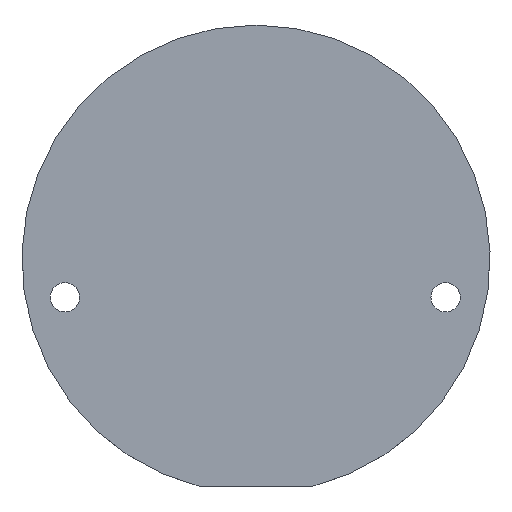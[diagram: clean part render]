
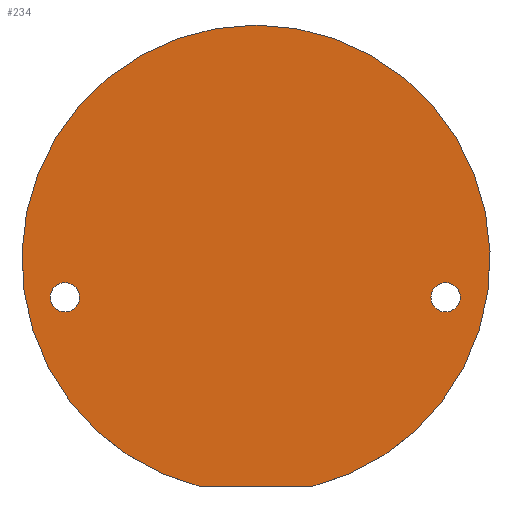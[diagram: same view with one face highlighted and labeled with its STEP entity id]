
A CAD part, top view. The second image highlights one B-rep face of the part: STEP entity #234.
In plain terms, the highlighted planar face has unit normal (0, 0, 1).
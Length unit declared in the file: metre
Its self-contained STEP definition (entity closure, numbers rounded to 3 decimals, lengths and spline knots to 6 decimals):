
#12=CIRCLE('',#260,0.032);
#16=CIRCLE('',#266,0.002);
#17=CIRCLE('',#267,0.002);
#49=ORIENTED_EDGE('',*,*,#107,.T.);
#50=ORIENTED_EDGE('',*,*,#108,.T.);
#51=ORIENTED_EDGE('',*,*,#95,.T.);
#52=ORIENTED_EDGE('',*,*,#99,.F.);
#95=EDGE_CURVE('',#126,#127,#148,.T.);
#99=EDGE_CURVE('',#126,#127,#12,.T.);
#107=EDGE_CURVE('',#136,#136,#16,.T.);
#108=EDGE_CURVE('',#137,#137,#17,.T.);
#126=VERTEX_POINT('',#364);
#127=VERTEX_POINT('',#365);
#136=VERTEX_POINT('',#389);
#137=VERTEX_POINT('',#391);
#148=LINE('',#363,#165);
#165=VECTOR('',#290,1.);
#188=EDGE_LOOP('',(#49));
#189=EDGE_LOOP('',(#50));
#190=EDGE_LOOP('',(#51,#52));
#209=FACE_BOUND('',#188,.T.);
#210=FACE_BOUND('',#189,.T.);
#211=FACE_BOUND('',#190,.T.);
#226=PLANE('',#265);
#234=ADVANCED_FACE('',(#209,#210,#211),#226,.F.);
#260=AXIS2_PLACEMENT_3D('',#372,#296,#297);
#265=AXIS2_PLACEMENT_3D('',#387,#310,#311);
#266=AXIS2_PLACEMENT_3D('',#388,#312,#313);
#267=AXIS2_PLACEMENT_3D('',#390,#314,#315);
#290=DIRECTION('',(1.,0.,0.));
#296=DIRECTION('',(0.,0.,-1.));
#297=DIRECTION('',(-1.,0.,0.));
#310=DIRECTION('',(0.,0.,-1.));
#311=DIRECTION('',(1.,0.,0.));
#312=DIRECTION('',(0.,0.,-1.));
#313=DIRECTION('',(-1.,0.,0.));
#314=DIRECTION('',(0.,0.,-1.));
#315=DIRECTION('',(-1.,0.,0.));
#363=CARTESIAN_POINT('',(0.,-0.031109,-0.007));
#364=CARTESIAN_POINT('',(-0.0075,-0.031109,-0.007));
#365=CARTESIAN_POINT('',(0.0075,-0.031109,-0.007));
#372=CARTESIAN_POINT('',(0.,0.,-0.007));
#387=CARTESIAN_POINT('',(0.,0.,-0.007));
#388=CARTESIAN_POINT('',(-0.026114,-0.0052,-0.007));
#389=CARTESIAN_POINT('',(-0.028114,-0.0052,-0.007));
#390=CARTESIAN_POINT('',(0.025914,-0.0052,-0.007));
#391=CARTESIAN_POINT('',(0.023914,-0.0052,-0.007));
